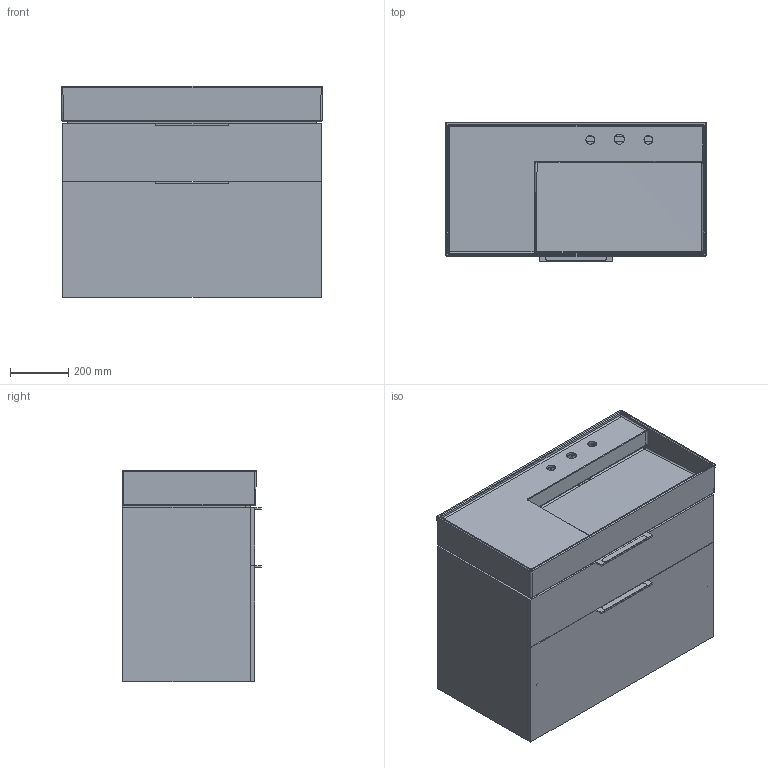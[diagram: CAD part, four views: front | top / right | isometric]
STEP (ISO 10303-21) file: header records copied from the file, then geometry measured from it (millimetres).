
FILE_DESCRIPTION(/* description */ (''),/* implementation_level */ '2;1');
FILE_NAME(/* name */ 'C:\Users\User33\Desktop\Kartell\3D01_407602.stp',/* time_stamp */ '2018-05-09T11:13:26+02:00',/* author */ ('User33'),/* organization */ (''),/* preprocessor_version */ 'ST-DEVELOPER v16.13',/* originating_system */ 'Autodesk Inventor 2018',/* authorisation */ '');
FILE_SCHEMA (('AUTOMOTIVE_DESIGN { 1 0 10303 214 3 1 1 }'));
Products named in the file (32): Assieme14; Parte888; Parte898; Parte902; Parte904; Parte906; Parte908; Parte910; Parte918; Parte920; Parte922; Parte924; Parte928; Parte930; Parte932; Parte934; Parte938; Parte940; Parte942; Parte944; Parte946; Parte948; Parte950; Parte952; Parte954; Parte956; Parte958; Parte960; Parte962; Parte968; Parte970; Parte972
Assembly tree (31 placements, depth 2):
  Assieme14
    Parte888
    Parte898
    Parte902
    Parte904
    Parte906
    Parte908
    Parte910
    Parte918
    Parte920
    Parte922
    Parte924
    Parte928
    Parte930
    Parte932
    Parte934
    Parte938
    Parte940
    Parte942
    Parte944
    Parte946
    Parte948
    Parte950
    Parte952
    Parte954
    Parte956
    Parte958
    Parte960
    Parte962
    Parte968
    Parte970
    Parte972
Bounding box: 899.89 x 477.01 x 728 mm (x, y, z)
Volume: 44370892.5 mm3; surface area: 7825605.1 mm2
Topology: 30 solids, 724 shells, 1748 faces, 6160 edges, 5200 vertices
Faces by surface type: plane 901, cylinder 440, bspline 367, sphere 16, cone 14, torus 10
Full cylindrical faces by diameter (mm): 2.5 x2, 4 x16, 4.1 x4, 5.1 x4, 6 x12, 7.2 x2, 10 x2, 12 x2, 12.5 x2
Entity records: 133580 total; most frequent: CARTESIAN_POINT 80559, DIRECTION 9465, ORIENTED_EDGE 8874, EDGE_CURVE 6097, VERTEX_POINT 5198, LINE 3193, VECTOR 3193, AXIS2_PLACEMENT_3D 3136
